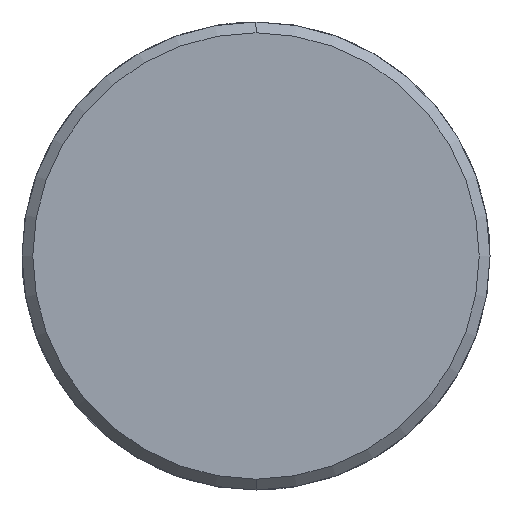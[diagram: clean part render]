
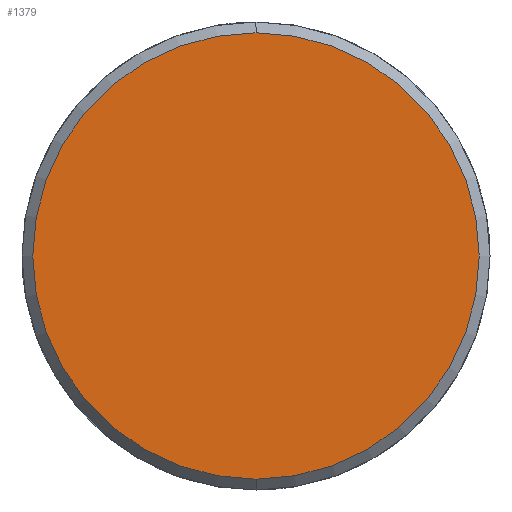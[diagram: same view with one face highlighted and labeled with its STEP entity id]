
A CAD part, left-side view. The second image highlights one B-rep face of the part: STEP entity #1379.
In plain terms, the highlighted planar face has unit normal (-1, 0, 0).
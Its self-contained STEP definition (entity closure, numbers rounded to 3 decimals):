
#1311=CARTESIAN_POINT('Vertex',(-10.,0.,-31.)) ;
#1314=CARTESIAN_POINT('Axis2P3D Location',(-10.,0.,0.)) ;
#1318=CARTESIAN_POINT('Vertex',(-10.,31.,0.)) ;
#1321=CARTESIAN_POINT('Axis2P3D Location',(-10.,0.,0.)) ;
#1325=CARTESIAN_POINT('Vertex',(-10.,0.,31.)) ;
#1347=CARTESIAN_POINT('Axis2P3D Location',(-10.,0.,0.)) ;
#1351=CARTESIAN_POINT('Vertex',(-10.,-31.,0.)) ;
#1354=CARTESIAN_POINT('Axis2P3D Location',(-10.,0.,0.)) ;
#1368=CARTESIAN_POINT('Axis2P3D Location',(-10.,0.,0.)) ;
#1315=DIRECTION('Axis2P3D Direction',(1.,0.,-0.)) ;
#1322=DIRECTION('Axis2P3D Direction',(1.,0.,-0.)) ;
#1348=DIRECTION('Axis2P3D Direction',(1.,0.,-0.)) ;
#1355=DIRECTION('Axis2P3D Direction',(1.,0.,-0.)) ;
#1369=DIRECTION('Axis2P3D Direction',(1.,0.,-0.)) ;
#1370=DIRECTION('Axis2P3D XDirection',(-0.,0.,-1.)) ;
#1316=AXIS2_PLACEMENT_3D('Circle Axis2P3D',#1314,#1315,$) ;
#1323=AXIS2_PLACEMENT_3D('Circle Axis2P3D',#1321,#1322,$) ;
#1349=AXIS2_PLACEMENT_3D('Circle Axis2P3D',#1347,#1348,$) ;
#1356=AXIS2_PLACEMENT_3D('Circle Axis2P3D',#1354,#1355,$) ;
#1371=AXIS2_PLACEMENT_3D('Plane Axis2P3D',#1368,#1369,#1370) ;
#1374=ORIENTED_EDGE('',*,*,#1320,.F.) ;
#1375=ORIENTED_EDGE('',*,*,#1358,.F.) ;
#1376=ORIENTED_EDGE('',*,*,#1353,.F.) ;
#1377=ORIENTED_EDGE('',*,*,#1327,.F.) ;
#1379=ADVANCED_FACE('351-50X126X300',(#1378),#1372,.F.) ;
#1317=CIRCLE('generated circle',#1316,31.) ;
#1324=CIRCLE('generated circle',#1323,31.) ;
#1350=CIRCLE('generated circle',#1349,31.) ;
#1357=CIRCLE('generated circle',#1356,31.) ;
#1320=EDGE_CURVE('',#1312,#1319,#1317,.T.) ;
#1327=EDGE_CURVE('',#1319,#1326,#1324,.T.) ;
#1353=EDGE_CURVE('',#1326,#1352,#1350,.T.) ;
#1358=EDGE_CURVE('',#1352,#1312,#1357,.T.) ;
#1373=EDGE_LOOP('',(#1374,#1375,#1376,#1377)) ;
#1378=FACE_OUTER_BOUND('',#1373,.T.) ;
#1372=PLANE('Plane',#1371) ;
#1312=VERTEX_POINT('',#1311) ;
#1319=VERTEX_POINT('',#1318) ;
#1326=VERTEX_POINT('',#1325) ;
#1352=VERTEX_POINT('',#1351) ;
